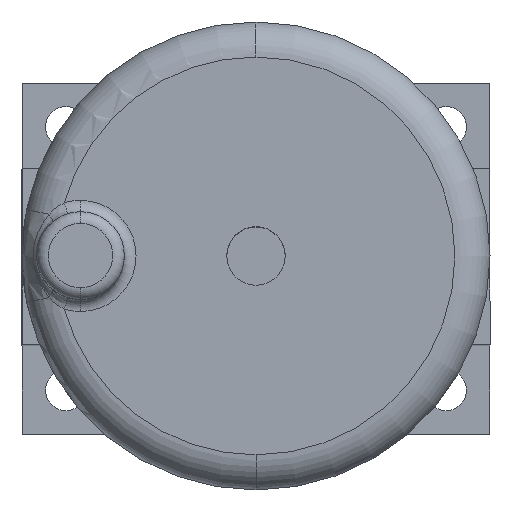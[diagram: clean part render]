
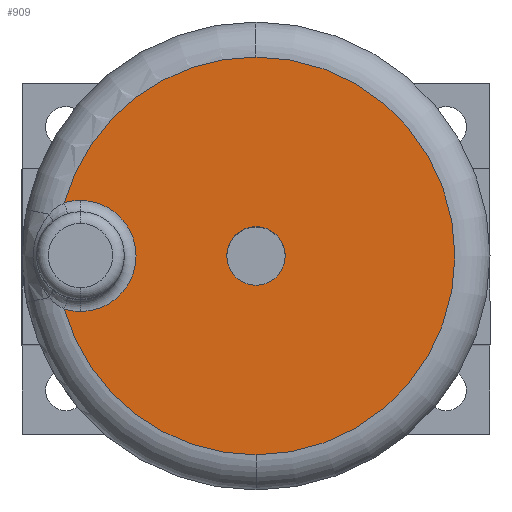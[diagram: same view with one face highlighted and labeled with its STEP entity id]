
A CAD part, top view. The second image highlights one B-rep face of the part: STEP entity #909.
In plain terms, the highlighted planar face has unit normal (0, 0, 1) as drawn and (1, 0, 0) by its records, which use the part's own axes.
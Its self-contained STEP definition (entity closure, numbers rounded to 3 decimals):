
#48 = CARTESIAN_POINT ( 'NONE',  ( 46., 0., -34. ) ) ;
#69 = CARTESIAN_POINT ( 'NONE',  ( 46., 32.763, -9.089 ) ) ;
#99 = CARTESIAN_POINT ( 'NONE',  ( 46., 30., -9.5 ) ) ;
#105 = AXIS2_PLACEMENT_3D ( 'NONE', #261, #740, #1011 ) ;
#170 = CARTESIAN_POINT ( 'NONE',  ( 46., 30., 9.5 ) ) ;
#261 = CARTESIAN_POINT ( 'NONE',  ( 46., 30., 0. ) ) ;
#317 = DIRECTION ( 'NONE',  ( 1., 0., 0. ) ) ;
#353 = ORIENTED_EDGE ( 'NONE', *, *, #1257, .T. ) ;
#430 = CIRCLE ( 'NONE', #1538, 9.5 ) ;
#463 = CARTESIAN_POINT ( 'NONE',  ( 46., 0., 0. ) ) ;
#468 = CIRCLE ( 'NONE', #2425, 34. ) ;
#517 = VERTEX_POINT ( 'NONE', #99 ) ;
#522 = AXIS2_PLACEMENT_3D ( 'NONE', #1290, #317, #1102 ) ;
#534 = ORIENTED_EDGE ( 'NONE', *, *, #2481, .T. ) ;
#659 = DIRECTION ( 'NONE',  ( -1., 0., 0. ) ) ;
#684 = VERTEX_POINT ( 'NONE', #2719 ) ;
#718 = CARTESIAN_POINT ( 'NONE',  ( 46., 30., 0. ) ) ;
#719 = CARTESIAN_POINT ( 'NONE',  ( 46., 0., 0. ) ) ;
#740 = DIRECTION ( 'NONE',  ( -1., 0., 0. ) ) ;
#751 = CIRCLE ( 'NONE', #1917, 9.5 ) ;
#797 = CIRCLE ( 'NONE', #2183, 5. ) ;
#836 = PLANE ( 'NONE',  #1103 ) ;
#872 = VERTEX_POINT ( 'NONE', #2058 ) ;
#889 = EDGE_CURVE ( 'NONE', #3092, #1010, #751, .T. ) ;
#909 = ADVANCED_FACE ( 'NONE', ( #2301, #1844 ), #836, .F. ) ;
#916 = DIRECTION ( 'NONE',  ( 0., 0., 1. ) ) ;
#965 = CARTESIAN_POINT ( 'NONE',  ( 46., 0., 0. ) ) ;
#1010 = VERTEX_POINT ( 'NONE', #1637 ) ;
#1011 = DIRECTION ( 'NONE',  ( 0., 0., 1. ) ) ;
#1069 = EDGE_CURVE ( 'NONE', #517, #3092, #430, .T. ) ;
#1070 = CARTESIAN_POINT ( 'NONE',  ( 46., 30., 0. ) ) ;
#1100 = EDGE_CURVE ( 'NONE', #1492, #872, #797, .T. ) ;
#1102 = DIRECTION ( 'NONE',  ( 0., 0., 1. ) ) ;
#1103 = AXIS2_PLACEMENT_3D ( 'NONE', #2547, #659, #1150 ) ;
#1150 = DIRECTION ( 'NONE',  ( 0., 0., 1. ) ) ;
#1246 = DIRECTION ( 'NONE',  ( 1., 0., 0. ) ) ;
#1248 = DIRECTION ( 'NONE',  ( 1., 0., 0. ) ) ;
#1257 = EDGE_CURVE ( 'NONE', #1995, #517, #2269, .T. ) ;
#1290 = CARTESIAN_POINT ( 'NONE',  ( 46., 0., 0. ) ) ;
#1311 = CIRCLE ( 'NONE', #2536, 34. ) ;
#1341 = ORIENTED_EDGE ( 'NONE', *, *, #2106, .F. ) ;
#1435 = VERTEX_POINT ( 'NONE', #48 ) ;
#1440 = DIRECTION ( 'NONE',  ( 1., 0., 0. ) ) ;
#1492 = VERTEX_POINT ( 'NONE', #2527 ) ;
#1510 = EDGE_LOOP ( 'NONE', ( #2036, #1341 ) ) ;
#1525 = AXIS2_PLACEMENT_3D ( 'NONE', #2933, #1248, #2407 ) ;
#1538 = AXIS2_PLACEMENT_3D ( 'NONE', #718, #2879, #1923 ) ;
#1549 = DIRECTION ( 'NONE',  ( 0., 0., 1. ) ) ;
#1576 = CIRCLE ( 'NONE', #1525, 5. ) ;
#1637 = CARTESIAN_POINT ( 'NONE',  ( 46., 32.763, 9.089 ) ) ;
#1722 = ORIENTED_EDGE ( 'NONE', *, *, #1069, .T. ) ;
#1844 = FACE_BOUND ( 'NONE', #1510, .T. ) ;
#1912 = CIRCLE ( 'NONE', #522, 34. ) ;
#1917 = AXIS2_PLACEMENT_3D ( 'NONE', #1070, #2998, #1549 ) ;
#1923 = DIRECTION ( 'NONE',  ( 0., 0., 1. ) ) ;
#1995 = VERTEX_POINT ( 'NONE', #69 ) ;
#2036 = ORIENTED_EDGE ( 'NONE', *, *, #1100, .F. ) ;
#2058 = CARTESIAN_POINT ( 'NONE',  ( 46., 0., 5. ) ) ;
#2070 = EDGE_LOOP ( 'NONE', ( #2751, #534, #2832, #353, #1722, #2857 ) ) ;
#2106 = EDGE_CURVE ( 'NONE', #872, #1492, #1576, .T. ) ;
#2183 = AXIS2_PLACEMENT_3D ( 'NONE', #965, #1440, #3131 ) ;
#2269 = CIRCLE ( 'NONE', #105, 9.5 ) ;
#2301 = FACE_OUTER_BOUND ( 'NONE', #2070, .T. ) ;
#2407 = DIRECTION ( 'NONE',  ( 0., 0., -1. ) ) ;
#2425 = AXIS2_PLACEMENT_3D ( 'NONE', #719, #1246, #2930 ) ;
#2481 = EDGE_CURVE ( 'NONE', #684, #1435, #468, .T. ) ;
#2527 = CARTESIAN_POINT ( 'NONE',  ( 46., 0., -5. ) ) ;
#2536 = AXIS2_PLACEMENT_3D ( 'NONE', #463, #2852, #916 ) ;
#2547 = CARTESIAN_POINT ( 'NONE',  ( 46., 0., 0. ) ) ;
#2586 = EDGE_CURVE ( 'NONE', #1010, #684, #1912, .T. ) ;
#2719 = CARTESIAN_POINT ( 'NONE',  ( 46., 0., 34. ) ) ;
#2725 = EDGE_CURVE ( 'NONE', #1435, #1995, #1311, .T. ) ;
#2751 = ORIENTED_EDGE ( 'NONE', *, *, #2586, .T. ) ;
#2832 = ORIENTED_EDGE ( 'NONE', *, *, #2725, .T. ) ;
#2852 = DIRECTION ( 'NONE',  ( 1., 0., 0. ) ) ;
#2857 = ORIENTED_EDGE ( 'NONE', *, *, #889, .T. ) ;
#2879 = DIRECTION ( 'NONE',  ( -1., 0., 0. ) ) ;
#2930 = DIRECTION ( 'NONE',  ( 0., 0., 1. ) ) ;
#2933 = CARTESIAN_POINT ( 'NONE',  ( 46., 0., 0. ) ) ;
#2998 = DIRECTION ( 'NONE',  ( -1., 0., 0. ) ) ;
#3092 = VERTEX_POINT ( 'NONE', #170 ) ;
#3131 = DIRECTION ( 'NONE',  ( 0., 0., -1. ) ) ;
